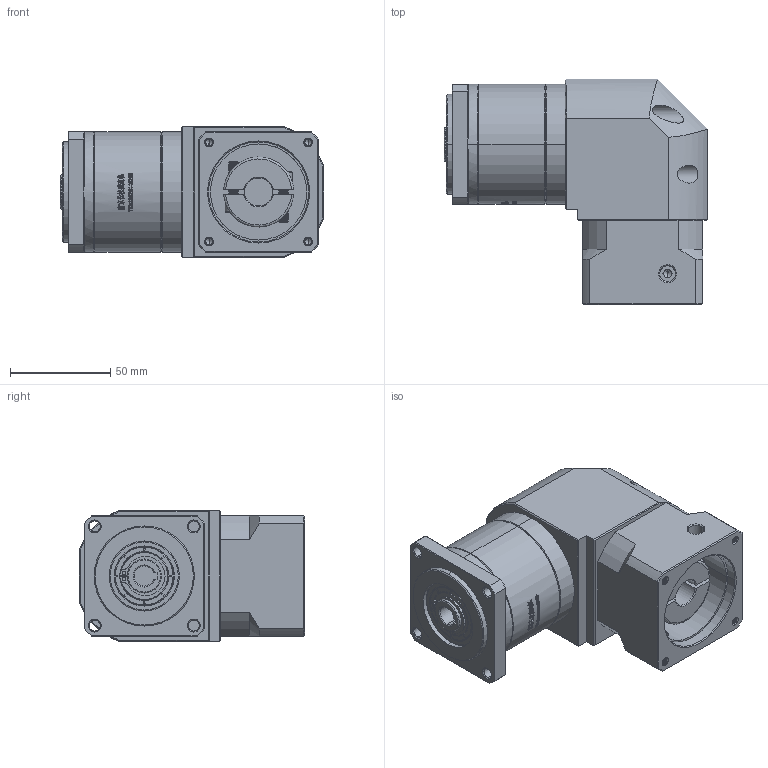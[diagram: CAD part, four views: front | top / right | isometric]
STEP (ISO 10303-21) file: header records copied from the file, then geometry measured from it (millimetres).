
FILE_DESCRIPTION (( 'STEP AP214' ), '1' );
FILE_NAME ('ZFR60-K10-L1-14-50-70-M4.STEP', '2022-04-20T08:58:31', ( '' ), ( 'Microsoft' ), 'SwSTEP 2.0', 'SolidWorks 2016', '' );
FILE_SCHEMA (( 'AUTOMOTIVE_DESIGN' ));
Length unit declared in the file: millimetre
Products named in the file (1): ZFR60-K10-L1-14-50-70-M4
Bounding box: 131.5 x 112.7 x 65 mm (x, y, z)
Volume: 529922.3 mm3; surface area: 77397.1 mm2
Topology: 5 solids, 6 shells, 2619 faces, 7121 edges, 4638 vertices
Faces by surface type: plane 1390, bspline 584, cylinder 351, cone 282, torus 12
Entity records: 140594 total; most frequent: CARTESIAN_POINT 51076, ORIENTED_EDGE 14202, DIRECTION 10200, EDGE_CURVE 7101, VERTEX_POINT 4638, VECTOR 4318, LINE 4318, AXIS2_PLACEMENT_3D 2941
